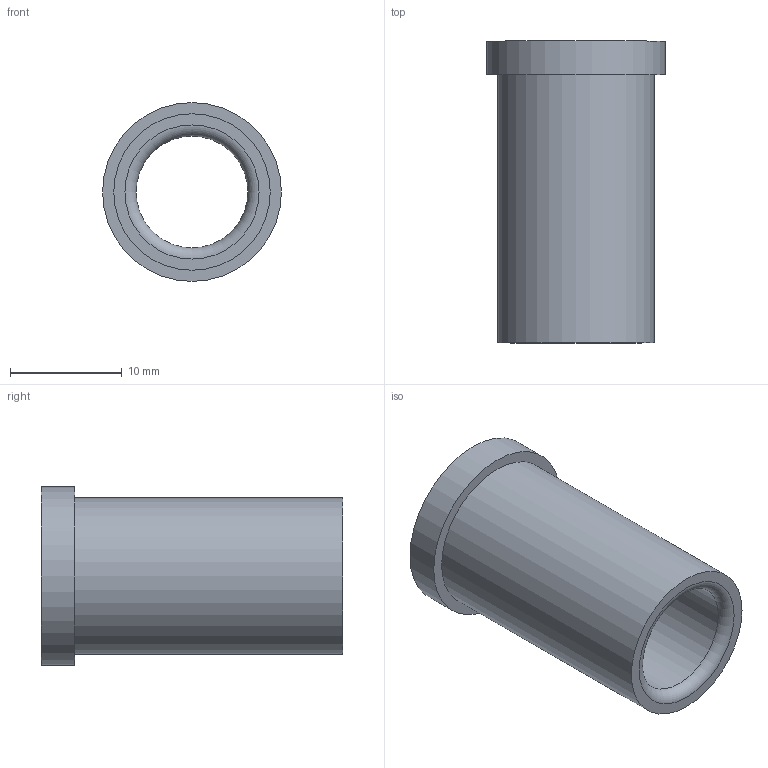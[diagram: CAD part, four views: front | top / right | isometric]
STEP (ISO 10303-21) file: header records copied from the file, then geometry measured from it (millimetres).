
FILE_DESCRIPTION(/* description */ ('STEP AP214'),/* implementation_level */ '2;1');
FILE_NAME(/* name */ '03_12_17836',/* time_stamp */ '2023-06-15T11:35:22+02:00',/* author */ ('License CC BY-ND 4.0'),/* organization */ ('CADENAS'),/* preprocessor_version */ 'ST-DEVELOPER v19.3',/* originating_system */ 'PARTsolutions',/* authorisation */ ' ');
FILE_SCHEMA (('AUTOMOTIVE_DESIGN {1 0 10303 214 3 1 1}'));
Length unit declared in the file: millimetre
Products named in the file (1): VA_Bushing_17836
Bounding box: 16 x 27 x 16 mm (x, y, z)
Volume: 2110.2 mm3; surface area: 2282.9 mm2
Topology: 1 solids, 1 shells, 10 faces, 16 edges, 10 vertices
Faces by surface type: cylinder 4, plane 4, torus 2
Full cylindrical faces by diameter (mm): 10 x1, 10.6 x1, 14 x1, 16 x1
Entity records: 302 total; most frequent: DIRECTION 42, CARTESIAN_POINT 31, AXIS2_PLACEMENT_3D 21, ORIENTED_EDGE 20, EDGE_LOOP 20, FACE_BOUND 20, EDGE_CURVE 10, VERTEX_POINT 10
